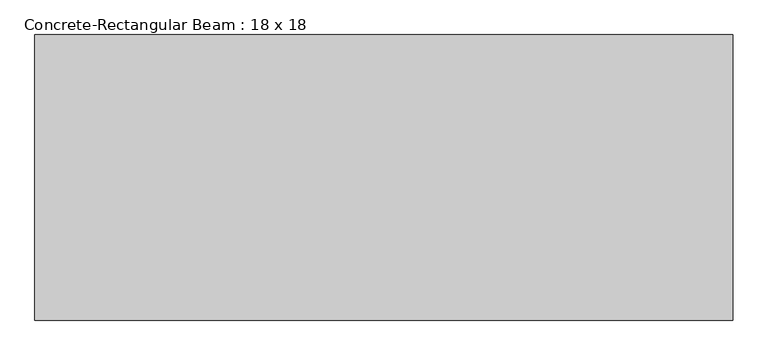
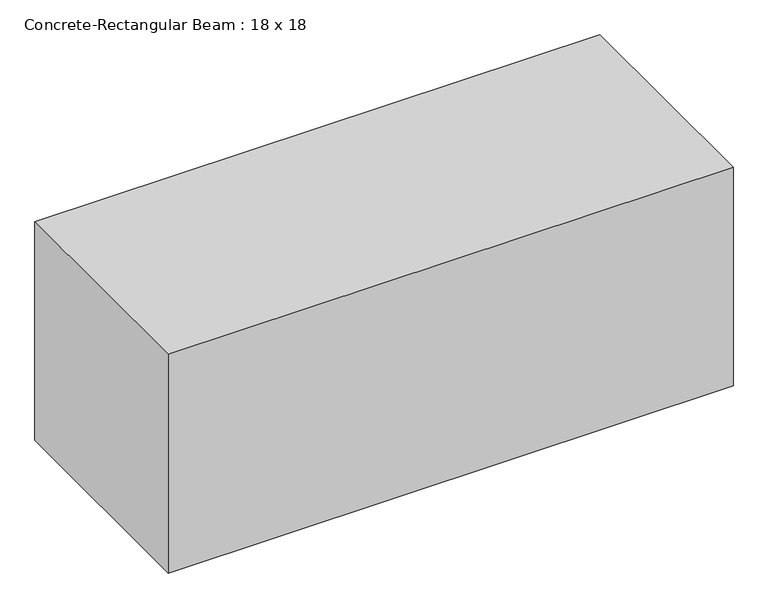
"""IFC4 building model written with IfcOpenShell, lengths in millimetres: beam geometry, Concrete-Rectangular Beam : 18 x 18."""

from ifc_helpers import new_model, si_unit, frame, origin, place, context, project, spatial, polyline, outline, extrude, source, transform, mapped, element, save


def concrete_rectangular_beam_18_x_18_d2ae2ec1(model_context):
    return source(origin(), model_context, "Body", "SweptSolid", [
        extrude(outline(polyline([(558.8, 228.6), (558.8, -228.6), (-558.8, -228.6), (-558.8, 228.6), (558.8, 228.6)])), frame((0.0, 0.0, -228.6), z_axis=(0.0, 0.0, 1.0), x_axis=(1.0, 0.0, 0.0)), (0.0, 0.0, 1.0), 457.2),
    ])


if __name__ == "__main__":
    model = new_model("IFC4")
    model_context = context("Model", 3, world=origin())
    ifc_project = project(units=[si_unit("LENGTHUNIT", "METRE", prefix="MILLI")], contexts=[model_context])
    site = spatial("IfcSite", under=ifc_project)
    building = spatial("IfcBuilding", under=site)
    placement = place(None, origin())
    concrete_rectangular_beam_18_x_18_shape = concrete_rectangular_beam_18_x_18_d2ae2ec1(model_context)
    element("IfcBeam", 1, ObjectType="Concrete-Rectangular Beam : 18 x 18", at=placement, inside=building, context=model_context, shape_type="MappedRepresentation", body=[
        mapped(concrete_rectangular_beam_18_x_18_shape, transform((0.0, 0.0, 0.0), x_axis=(1.0, 0.0, 0.0), y_axis=(0.0, 1.0, 0.0), z_axis=(0.0, 0.0, 1.0))),
    ])
    save(model, "model.ifc")
